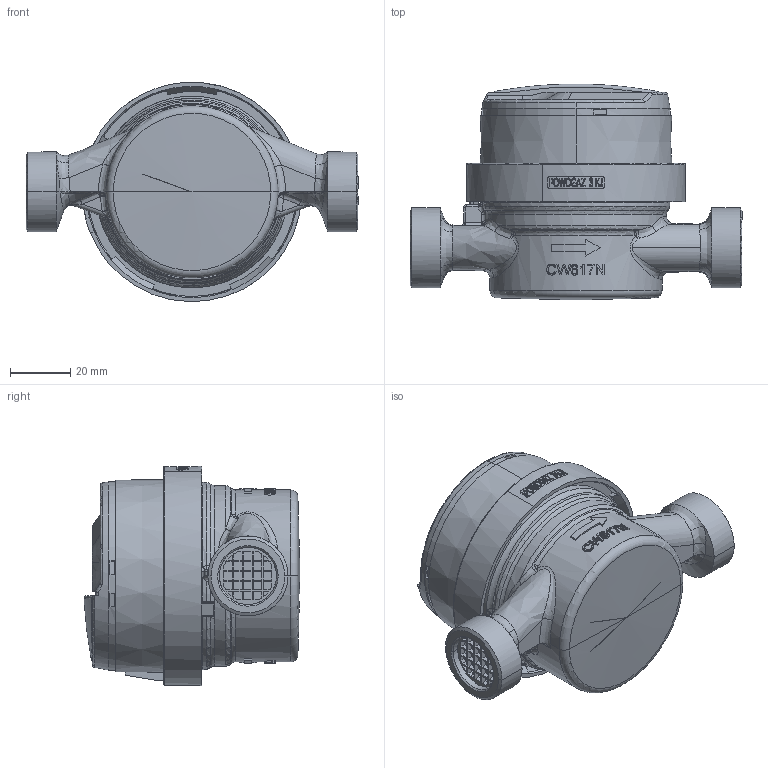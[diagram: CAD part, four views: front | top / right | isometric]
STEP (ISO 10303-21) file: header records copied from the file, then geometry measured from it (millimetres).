
FILE_DESCRIPTION (( 'STEP AP214' ), '1' );
FILE_NAME ('JS90-2,5-02.STEP', '2025-05-23T09:23:07', ( '' ), ( '' ), 'SwSTEP 2.0', 'SolidWorks 2019', '' );
FILE_SCHEMA (( 'AUTOMOTIVE_DESIGN' ));
Length unit declared in the file: millimetre
Products named in the file (1): JS90-2,5-02
Bounding box: 110 x 71.55 x 72.67 mm (x, y, z)
Volume: 218418.2 mm3; surface area: 35529.7 mm2
Topology: 2 solids, 2 shells, 796 faces, 2278 edges, 1495 vertices
Faces by surface type: plane 363, bspline 220, cylinder 121, cone 56, torus 27, sphere 9
Entity records: 44994 total; most frequent: CARTESIAN_POINT 27242, ORIENTED_EDGE 4508, EDGE_CURVE 2254, B_SPLINE_CURVE_WITH_KNOTS 2186, VERTEX_POINT 1495, DIRECTION 1154, EDGE_LOOP 887, FACE_OUTER_BOUND 796
